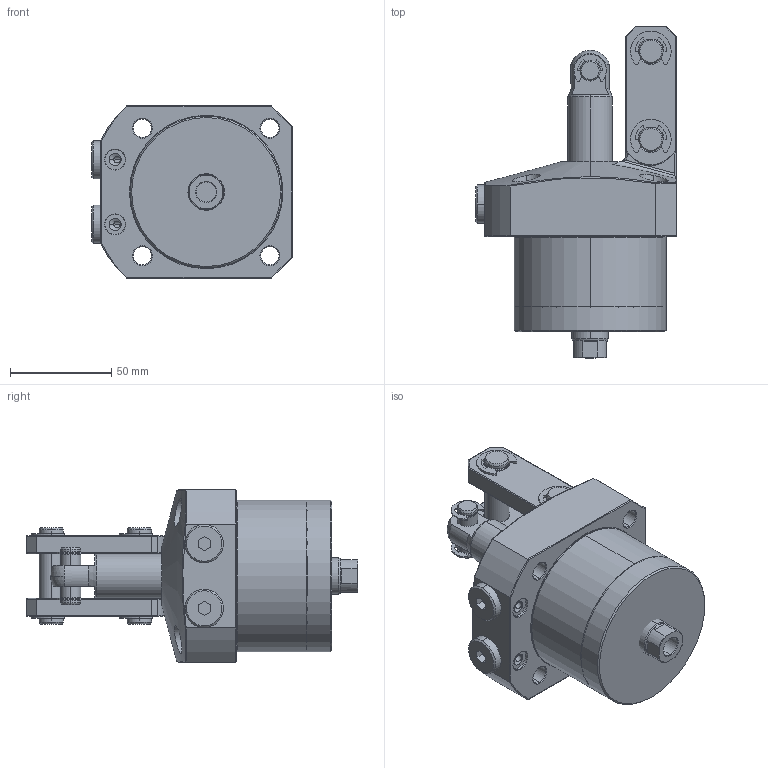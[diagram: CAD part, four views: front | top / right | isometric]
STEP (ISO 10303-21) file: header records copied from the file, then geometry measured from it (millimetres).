
FILE_DESCRIPTION(/* description */ (''),/* implementation_level */ '2;1');
FILE_NAME(/* name */ 'KTPC75-FD.stp',/* time_stamp */ '2022-11-19T08:40:59+08:00',/* author */ (''),/* organization */ (''),/* preprocessor_version */ 'ST-DEVELOPER v16.7',/* originating_system */ 'SIEMENS PLM Software NX 12.0',/* authorisation */ '');
FILE_SCHEMA (('AP203_CONFIGURATION_CONTROLLED_3D_DESIGN_OF_MECHANICAL_PARTS_AND_ASSEMBLIES_MIM_LF { 1 0 10303 403 2 1 2}'));
Length unit declared in the file: millimetre
Products named in the file (10): KTPC75-FD-02; KTPC75-FD-03; KTPC75-FD-07; KTPC75-FD-01; KTPC75-FD-04; KTPC75-FD-05; KTPC75-FD-09; KTPC75-FD-08; KTPC75-FD-06; LKA0750-CCD_step
Assembly tree (16 placements, depth 2):
  LKA0750-CCD_step
    KTPC75-FD-06  x2
    KTPC75-FD-08  x2
    KTPC75-FD-09  x4
    KTPC75-FD-05  x2
    KTPC75-FD-04  x2
    KTPC75-FD-01
    KTPC75-FD-07
    KTPC75-FD-03
    KTPC75-FD-02
Bounding box: 99 x 164 x 85 mm (x, y, z)
Volume: 673030.9 mm3; surface area: 88417.8 mm2
Topology: 16 solids, 16 shells, 586 faces, 1416 edges, 885 vertices
Faces by surface type: cylinder 268, plane 157, cone 74, torus 68, bspline 17, sphere 2
Full cylindrical faces by diameter (mm): 75 x1
Entity records: 13499 total; most frequent: CARTESIAN_POINT 3382, DIRECTION 1926, ORIENTED_EDGE 1788, EDGE_CURVE 894, AXIS2_PLACEMENT_3D 787, VERTEX_POINT 555, EDGE_LOOP 421, CIRCLE 408
